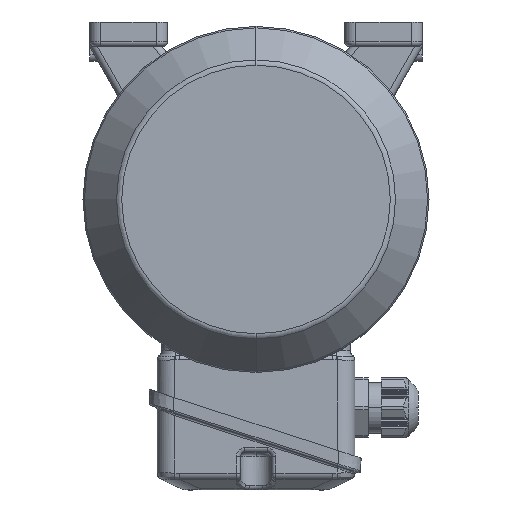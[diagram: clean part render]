
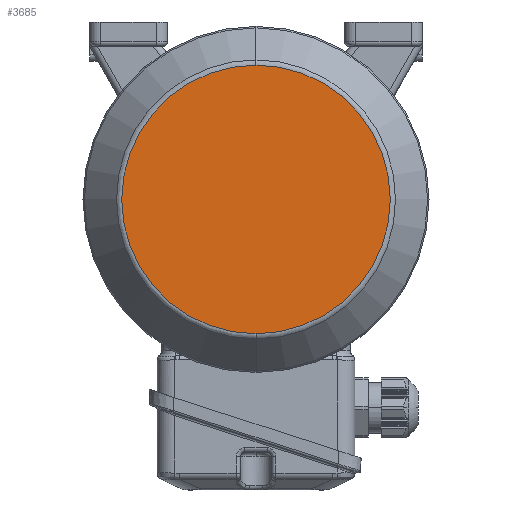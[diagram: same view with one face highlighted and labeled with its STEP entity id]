
A CAD part, left-side view. The second image highlights one B-rep face of the part: STEP entity #3685.
In plain terms, the highlighted planar face has unit normal (-1, 0, 0).
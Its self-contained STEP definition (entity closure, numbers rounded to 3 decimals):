
#1164 = DIRECTION ( 'NONE',  ( 0., 0., -1. ) ) ;
#2302 = DIRECTION ( 'NONE',  ( 1., 0., 0. ) ) ;
#3685 = ADVANCED_FACE ( 'NONE', ( #22450 ), #29626, .T. ) ;
#4926 = AXIS2_PLACEMENT_3D ( 'NONE', #32308, #19280, #1164 ) ;
#7268 = DIRECTION ( 'NONE',  ( 0., 0., -1. ) ) ;
#9459 = ORIENTED_EDGE ( 'NONE', *, *, #30539, .F. ) ;
#9821 = AXIS2_PLACEMENT_3D ( 'NONE', #22023, #13978, #32138 ) ;
#12153 = VERTEX_POINT ( 'NONE', #29911 ) ;
#13814 = EDGE_LOOP ( 'NONE', ( #14981, #9459 ) ) ;
#13978 = DIRECTION ( 'NONE',  ( -1., 0., 0. ) ) ;
#13979 = EDGE_CURVE ( 'NONE', #18606, #12153, #29255, .T. ) ;
#14981 = ORIENTED_EDGE ( 'NONE', *, *, #13979, .F. ) ;
#18606 = VERTEX_POINT ( 'NONE', #28769 ) ;
#19280 = DIRECTION ( 'NONE',  ( 1., 0., 0. ) ) ;
#22023 = CARTESIAN_POINT ( 'NONE',  ( -163.65, 0., -60.537 ) ) ;
#22396 = CIRCLE ( 'NONE', #29056, 60.537 ) ;
#22450 = FACE_OUTER_BOUND ( 'NONE', #13814, .T. ) ;
#23087 = CARTESIAN_POINT ( 'NONE',  ( -163.65, 0., 0. ) ) ;
#28769 = CARTESIAN_POINT ( 'NONE',  ( -163.65, 0., -60.537 ) ) ;
#29056 = AXIS2_PLACEMENT_3D ( 'NONE', #23087, #2302, #7268 ) ;
#29255 = CIRCLE ( 'NONE', #4926, 60.537 ) ;
#29626 = PLANE ( 'NONE',  #9821 ) ;
#29911 = CARTESIAN_POINT ( 'NONE',  ( -163.65, 0., 60.537 ) ) ;
#30539 = EDGE_CURVE ( 'NONE', #12153, #18606, #22396, .T. ) ;
#32138 = DIRECTION ( 'NONE',  ( 0., 1., 0. ) ) ;
#32308 = CARTESIAN_POINT ( 'NONE',  ( -163.65, 0., 0. ) ) ;
